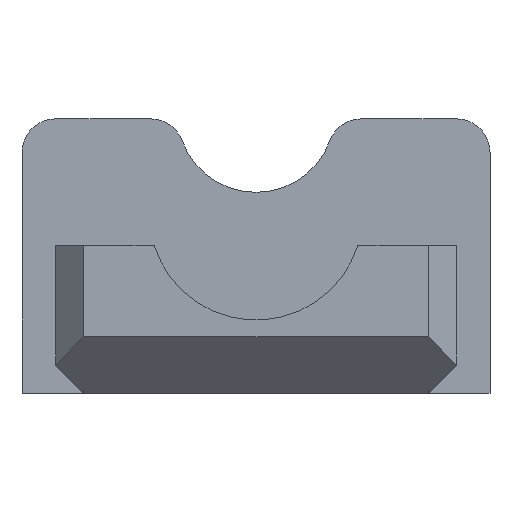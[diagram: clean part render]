
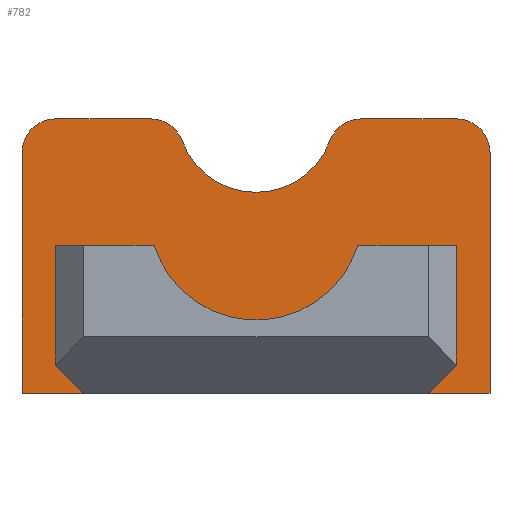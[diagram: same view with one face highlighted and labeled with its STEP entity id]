
A CAD part, left-side view. The second image highlights one B-rep face of the part: STEP entity #782.
In plain terms, the highlighted planar face has unit normal (-1, 0, 0).
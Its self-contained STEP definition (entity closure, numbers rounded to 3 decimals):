
#15=FACE_BOUND('',#96,.T.);
#27=CIRCLE('',#834,3.);
#28=CIRCLE('',#837,3.);
#29=CIRCLE('',#839,3.);
#30=CIRCLE('',#841,7.);
#31=CIRCLE('',#843,3.);
#32=CIRCLE('',#848,9.5);
#54=FACE_OUTER_BOUND('',#95,.T.);
#95=EDGE_LOOP('',(#601,#602,#603,#604,#605,#606,#607,#608,#609,#610));
#96=EDGE_LOOP('',(#611,#612,#613,#614,#615,#616));
#155=LINE('',#1171,#255);
#162=LINE('',#1194,#262);
#167=LINE('',#1204,#267);
#169=LINE('',#1208,#269);
#172=LINE('',#1215,#272);
#173=LINE('',#1216,#273);
#174=LINE('',#1217,#274);
#175=LINE('',#1218,#275);
#176=LINE('',#1220,#276);
#177=LINE('',#1223,#277);
#255=VECTOR('',#948,10.);
#262=VECTOR('',#973,10.);
#267=VECTOR('',#980,10.);
#269=VECTOR('',#984,10.);
#272=VECTOR('',#989,10.);
#273=VECTOR('',#990,10.);
#274=VECTOR('',#991,10.);
#275=VECTOR('',#992,10.);
#276=VECTOR('',#993,10.);
#277=VECTOR('',#996,10.);
#349=VERTEX_POINT('',#1164);
#350=VERTEX_POINT('',#1165);
#351=VERTEX_POINT('',#1170);
#352=VERTEX_POINT('',#1174);
#353=VERTEX_POINT('',#1176);
#354=VERTEX_POINT('',#1180);
#355=VERTEX_POINT('',#1184);
#356=VERTEX_POINT('',#1188);
#357=VERTEX_POINT('',#1192);
#358=VERTEX_POINT('',#1193);
#362=VERTEX_POINT('',#1203);
#363=VERTEX_POINT('',#1207);
#365=VERTEX_POINT('',#1213);
#366=VERTEX_POINT('',#1214);
#367=VERTEX_POINT('',#1219);
#368=VERTEX_POINT('',#1221);
#432=EDGE_CURVE('',#349,#350,#27,.T.);
#435=EDGE_CURVE('',#351,#350,#155,.T.);
#438=EDGE_CURVE('',#352,#353,#28,.T.);
#440=EDGE_CURVE('',#351,#354,#29,.T.);
#442=EDGE_CURVE('',#355,#354,#30,.T.);
#444=EDGE_CURVE('',#355,#356,#31,.T.);
#446=EDGE_CURVE('',#357,#358,#162,.T.);
#451=EDGE_CURVE('',#362,#357,#167,.T.);
#453=EDGE_CURVE('',#363,#362,#169,.T.);
#456=EDGE_CURVE('',#365,#366,#172,.F.);
#457=EDGE_CURVE('',#365,#353,#173,.T.);
#458=EDGE_CURVE('',#352,#356,#174,.T.);
#459=EDGE_CURVE('',#349,#366,#175,.T.);
#460=EDGE_CURVE('',#358,#367,#176,.T.);
#461=EDGE_CURVE('',#367,#368,#32,.T.);
#462=EDGE_CURVE('',#368,#363,#177,.T.);
#601=ORIENTED_EDGE('',*,*,#456,.F.);
#602=ORIENTED_EDGE('',*,*,#457,.T.);
#603=ORIENTED_EDGE('',*,*,#438,.F.);
#604=ORIENTED_EDGE('',*,*,#458,.T.);
#605=ORIENTED_EDGE('',*,*,#444,.F.);
#606=ORIENTED_EDGE('',*,*,#442,.T.);
#607=ORIENTED_EDGE('',*,*,#440,.F.);
#608=ORIENTED_EDGE('',*,*,#435,.T.);
#609=ORIENTED_EDGE('',*,*,#432,.F.);
#610=ORIENTED_EDGE('',*,*,#459,.T.);
#611=ORIENTED_EDGE('',*,*,#451,.T.);
#612=ORIENTED_EDGE('',*,*,#446,.T.);
#613=ORIENTED_EDGE('',*,*,#460,.T.);
#614=ORIENTED_EDGE('',*,*,#461,.T.);
#615=ORIENTED_EDGE('',*,*,#462,.T.);
#616=ORIENTED_EDGE('',*,*,#453,.T.);
#742=PLANE('',#847);
#782=ADVANCED_FACE('',(#54,#15),#742,.F.);
#834=AXIS2_PLACEMENT_3D('',#1166,#942,#943);
#837=AXIS2_PLACEMENT_3D('',#1177,#953,#954);
#839=AXIS2_PLACEMENT_3D('',#1181,#958,#959);
#841=AXIS2_PLACEMENT_3D('',#1185,#963,#964);
#843=AXIS2_PLACEMENT_3D('',#1189,#968,#969);
#847=AXIS2_PLACEMENT_3D('',#1212,#987,#988);
#848=AXIS2_PLACEMENT_3D('',#1222,#994,#995);
#942=DIRECTION('center_axis',(1.,0.,0.));
#943=DIRECTION('ref_axis',(0.,0.707,0.707));
#948=DIRECTION('',(0.,1.,0.));
#953=DIRECTION('center_axis',(1.,0.,0.));
#954=DIRECTION('ref_axis',(0.,-0.707,0.707));
#958=DIRECTION('center_axis',(1.,0.,0.));
#959=DIRECTION('ref_axis',(0.,-0.572,0.82));
#963=DIRECTION('center_axis',(1.,0.,0.));
#964=DIRECTION('ref_axis',(0.,1.,0.));
#968=DIRECTION('center_axis',(1.,0.,0.));
#969=DIRECTION('ref_axis',(0.,0.572,0.82));
#973=DIRECTION('',(0.,0.,1.));
#980=DIRECTION('',(0.,1.,0.));
#984=DIRECTION('',(0.,0.,-1.));
#987=DIRECTION('center_axis',(1.,0.,0.));
#988=DIRECTION('ref_axis',(0.,1.,0.));
#989=DIRECTION('',(0.,-1.,0.));
#990=DIRECTION('',(0.,0.,1.));
#991=DIRECTION('',(0.,1.,0.));
#992=DIRECTION('',(0.,0.,-1.));
#993=DIRECTION('',(0.,-1.,0.));
#994=DIRECTION('center_axis',(-1.,0.,0.));
#995=DIRECTION('ref_axis',(0.,1.,0.));
#996=DIRECTION('',(0.,-1.,0.));
#1164=CARTESIAN_POINT('',(96.15,20.8,-163.51));
#1165=CARTESIAN_POINT('',(96.15,17.8,-160.51));
#1166=CARTESIAN_POINT('Origin',(96.15,17.8,-163.51));
#1170=CARTESIAN_POINT('',(96.15,9.382,-160.51));
#1171=CARTESIAN_POINT('',(96.15,-20.8,-160.51));
#1174=CARTESIAN_POINT('',(96.15,-17.8,-160.51));
#1176=CARTESIAN_POINT('',(96.15,-20.8,-163.51));
#1177=CARTESIAN_POINT('Origin',(96.15,-17.8,-163.51));
#1180=CARTESIAN_POINT('',(96.15,6.567,-162.472));
#1181=CARTESIAN_POINT('Origin',(96.15,9.382,-163.51));
#1184=CARTESIAN_POINT('',(96.15,-6.567,-162.472));
#1185=CARTESIAN_POINT('Origin',(96.15,0.,-160.048));
#1188=CARTESIAN_POINT('',(96.15,-9.382,-160.51));
#1189=CARTESIAN_POINT('Origin',(96.15,-9.382,-163.51));
#1192=CARTESIAN_POINT('',(96.15,15.3,-184.9));
#1193=CARTESIAN_POINT('',(96.15,15.3,-171.75));
#1194=CARTESIAN_POINT('',(96.15,15.3,-178.796));
#1203=CARTESIAN_POINT('',(96.15,-15.3,-184.9));
#1204=CARTESIAN_POINT('',(96.15,0.,-184.9));
#1207=CARTESIAN_POINT('',(96.15,-15.3,-171.75));
#1208=CARTESIAN_POINT('',(96.15,-15.3,-172.221));
#1212=CARTESIAN_POINT('Origin',(96.15,-15.3,-172.75));
#1213=CARTESIAN_POINT('',(96.15,-20.8,-184.9));
#1214=CARTESIAN_POINT('',(96.15,20.8,-184.9));
#1215=CARTESIAN_POINT('',(96.15,-10.4,-184.9));
#1216=CARTESIAN_POINT('',(96.15,-20.8,-166.601));
#1217=CARTESIAN_POINT('',(96.15,-20.8,-160.51));
#1218=CARTESIAN_POINT('',(96.15,20.8,-178.783));
#1219=CARTESIAN_POINT('',(96.15,9.062,-171.75));
#1220=CARTESIAN_POINT('',(96.15,0.,-171.75));
#1221=CARTESIAN_POINT('',(96.15,-9.062,-171.75));
#1222=CARTESIAN_POINT('Origin',(96.15,0.,-168.9));
#1223=CARTESIAN_POINT('',(96.15,0.,-171.75));
